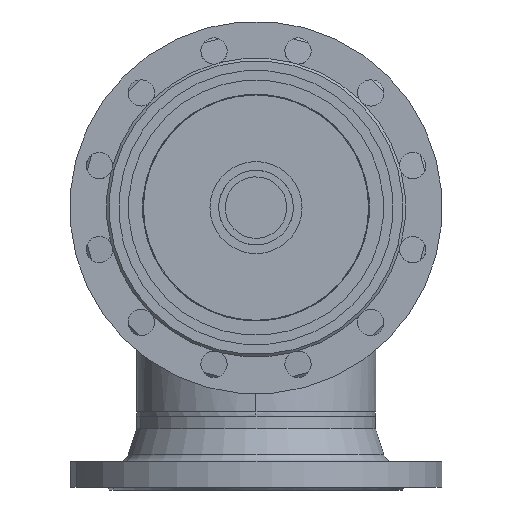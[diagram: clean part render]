
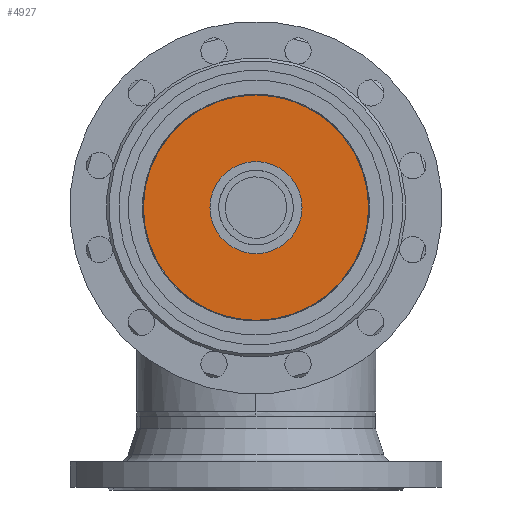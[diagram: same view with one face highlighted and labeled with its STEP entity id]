
A CAD part, front view. The second image highlights one B-rep face of the part: STEP entity #4927.
In plain terms, the highlighted planar face has unit normal (0, -1, 0).
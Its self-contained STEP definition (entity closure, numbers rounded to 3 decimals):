
#16863 = FACE_BOUND ( 'NONE', #4669, .T. ) ;
#16864 = FACE_OUTER_BOUND ( 'NONE', #2961, .T. ) ;
#16865 = PLANE ( 'NONE',  #16866 ) ;
#16866 = AXIS2_PLACEMENT_3D ( 'NONE', #16867, #16868, #16871 ) ;
#16867 = CARTESIAN_POINT ( 'NONE',  ( 0., -48., 0. ) ) ;
#16868 = DIRECTION ( 'NONE',  ( 0., -1., 0. ) ) ;
#16871 = DIRECTION ( 'NONE',  ( 0., 0., -1. ) ) ;
#714 = VERTEX_POINT ( 'NONE', #7641 ) ;
#2247 = ORIENTED_EDGE ( 'NONE', *, *, #6390, .T. ) ;
#2884 = CARTESIAN_POINT ( 'NONE',  ( 0., -48., -52.5 ) ) ;
#2961 = EDGE_LOOP ( 'NONE', ( #2247, #14830 ) ) ;
#3057 = CIRCLE ( 'NONE', #3058, 52.5 ) ;
#3058 = AXIS2_PLACEMENT_3D ( 'NONE', #3059, #3060, #3066 ) ;
#3059 = CARTESIAN_POINT ( 'NONE',  ( 0., -48., 0. ) ) ;
#3060 = DIRECTION ( 'NONE',  ( 0., -1., 0. ) ) ;
#3066 = DIRECTION ( 'NONE',  ( 0., 0., -1. ) ) ;
#3213 = ORIENTED_EDGE ( 'NONE', *, *, #22727, .F. ) ;
#3750 = EDGE_CURVE ( 'NONE', #22499, #714, #12393, .T. ) ;
#4123 = ORIENTED_EDGE ( 'NONE', *, *, #3750, .F. ) ;
#4669 = EDGE_LOOP ( 'NONE', ( #4123, #3213 ) ) ;
#4927 = ADVANCED_FACE ( 'NONE', ( #16863, #16864 ), #16865, .T. ) ;
#21428 = CIRCLE ( 'NONE', #21429, 148. ) ;
#21429 = AXIS2_PLACEMENT_3D ( 'NONE', #21430, #21431, #21432 ) ;
#21430 = CARTESIAN_POINT ( 'NONE',  ( 0., -48., 0. ) ) ;
#21431 = DIRECTION ( 'NONE',  ( 0., -1., 0. ) ) ;
#21432 = DIRECTION ( 'NONE',  ( 0., 0., -1. ) ) ;
#6025 = CARTESIAN_POINT ( 'NONE',  ( 0., -48., 148. ) ) ;
#22499 = VERTEX_POINT ( 'NONE', #2884 ) ;
#22727 = EDGE_CURVE ( 'NONE', #714, #22499, #3057, .T. ) ;
#6390 = EDGE_CURVE ( 'NONE', #14096, #14331, #21428, .T. ) ;
#7641 = CARTESIAN_POINT ( 'NONE',  ( 0., -48., 52.5 ) ) ;
#10144 = CARTESIAN_POINT ( 'NONE',  ( 0., -48., -148. ) ) ;
#10716 = CIRCLE ( 'NONE', #10717, 148. ) ;
#10717 = AXIS2_PLACEMENT_3D ( 'NONE', #10718, #10719, #10720 ) ;
#10718 = CARTESIAN_POINT ( 'NONE',  ( 0., -48., 0. ) ) ;
#10719 = DIRECTION ( 'NONE',  ( 0., -1., 0. ) ) ;
#10720 = DIRECTION ( 'NONE',  ( 0., 0., -1. ) ) ;
#12393 = CIRCLE ( 'NONE', #12394, 52.5 ) ;
#12394 = AXIS2_PLACEMENT_3D ( 'NONE', #12395, #12396, #12397 ) ;
#12395 = CARTESIAN_POINT ( 'NONE',  ( 0., -48., 0. ) ) ;
#12396 = DIRECTION ( 'NONE',  ( 0., -1., 0. ) ) ;
#12397 = DIRECTION ( 'NONE',  ( 0., 0., -1. ) ) ;
#14096 = VERTEX_POINT ( 'NONE', #6025 ) ;
#14331 = VERTEX_POINT ( 'NONE', #10144 ) ;
#14561 = EDGE_CURVE ( 'NONE', #14331, #14096, #10716, .T. ) ;
#14830 = ORIENTED_EDGE ( 'NONE', *, *, #14561, .T. ) ;
